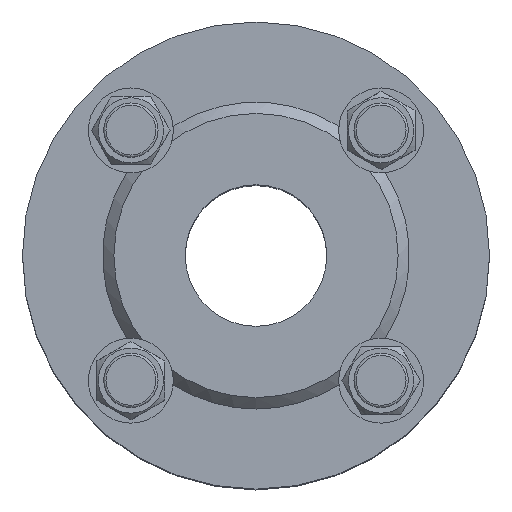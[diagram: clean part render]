
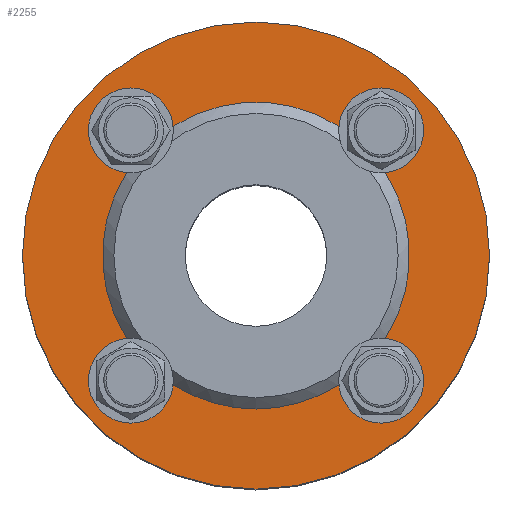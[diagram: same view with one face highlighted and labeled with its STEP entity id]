
A CAD part, top view. The second image highlights one B-rep face of the part: STEP entity #2255.
In plain terms, the highlighted planar face has unit normal (0, 0, 1) as drawn and (0, 0, -1) by its records, which use the part's own axes.
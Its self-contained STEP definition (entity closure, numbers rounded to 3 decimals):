
#2255=ADVANCED_FACE('',(#2929,#2931),#2933,.F.);
#2929=FACE_BOUND('',#2930,.T.);
#2930=EDGE_LOOP('',(#3927));
#2931=FACE_BOUND('',#2932,.T.);
#2932=EDGE_LOOP('',(#3928,#3929,#3930,#3931,#3932,#3933,#3934,#3935,#3936,#3937,
#3938,#3939,#3940));
#2933=PLANE('',#2934);
#2934=AXIS2_PLACEMENT_3D('',#2935,#2936,#2937);
#2935=CARTESIAN_POINT('',(0.,0.,4.));
#2936=DIRECTION('',(0.,0.,1.));
#2937=DIRECTION('',(-1.,0.,0.));
#3927=ORIENTED_EDGE('',*,*,#4262,.F.);
#3928=ORIENTED_EDGE('',*,*,#4265,.T.);
#3929=ORIENTED_EDGE('',*,*,#4276,.T.);
#3930=ORIENTED_EDGE('',*,*,#4266,.T.);
#3931=ORIENTED_EDGE('',*,*,#4268,.T.);
#3932=ORIENTED_EDGE('',*,*,#4277,.T.);
#3933=ORIENTED_EDGE('',*,*,#4271,.T.);
#3934=ORIENTED_EDGE('',*,*,#4270,.T.);
#3935=ORIENTED_EDGE('',*,*,#4278,.T.);
#3936=ORIENTED_EDGE('',*,*,#4279,.T.);
#3937=ORIENTED_EDGE('',*,*,#4273,.T.);
#3938=ORIENTED_EDGE('',*,*,#4272,.T.);
#3939=ORIENTED_EDGE('',*,*,#4280,.T.);
#3940=ORIENTED_EDGE('',*,*,#4263,.T.);
#4262=EDGE_CURVE('',#4646,#4646,#4647,.T.);
#4263=EDGE_CURVE('',#4648,#4649,#4650,.T.);
#4265=EDGE_CURVE('',#4649,#4651,#4653,.T.);
#4266=EDGE_CURVE('',#4654,#4655,#4656,.T.);
#4268=EDGE_CURVE('',#4655,#4657,#4659,.T.);
#4270=EDGE_CURVE('',#4663,#4660,#4664,.T.);
#4271=EDGE_CURVE('',#4661,#4663,#4665,.T.);
#4272=EDGE_CURVE('',#4666,#4667,#4668,.T.);
#4273=EDGE_CURVE('',#4669,#4666,#4670,.T.);
#4276=EDGE_CURVE('',#4651,#4654,#4674,.T.);
#4277=EDGE_CURVE('',#4657,#4661,#4675,.T.);
#4278=EDGE_CURVE('',#4660,#4676,#4677,.T.);
#4279=EDGE_CURVE('',#4676,#4669,#4678,.T.);
#4280=EDGE_CURVE('',#4667,#4648,#4679,.T.);
#4646=VERTEX_POINT('',#8432);
#4647=CIRCLE('',#8433,82.5);
#4648=VERTEX_POINT('',#8437);
#4649=VERTEX_POINT('',#8438);
#4650=CIRCLE('',#8439,9.5);
#4651=VERTEX_POINT('',#8443);
#4653=CIRCLE('',#8513,9.5);
#4654=VERTEX_POINT('',#8517);
#4655=VERTEX_POINT('',#8518);
#4656=CIRCLE('',#8519,9.5);
#4657=VERTEX_POINT('',#8523);
#4659=CIRCLE('',#8593,9.5);
#4660=VERTEX_POINT('',#8597);
#4661=VERTEX_POINT('',#8598);
#4663=VERTEX_POINT('',#8668);
#4664=CIRCLE('',#8669,9.5);
#4665=CIRCLE('',#8673,9.5);
#4666=VERTEX_POINT('',#8677);
#4667=VERTEX_POINT('',#8678);
#4668=CIRCLE('',#8679,9.5);
#4669=VERTEX_POINT('',#8683);
#4670=CIRCLE('',#8684,9.5);
#4674=CIRCLE('',#8762,54.2);
#4675=CIRCLE('',#8766,54.2);
#4676=VERTEX_POINT('',#8770);
#4677=CIRCLE('',#8771,54.2);
#4678=CIRCLE('',#8775,54.2);
#4679=CIRCLE('',#8779,54.2);
#8432=CARTESIAN_POINT('',(-82.5,0.,4.));
#8433=AXIS2_PLACEMENT_3D('',#8434,#8435,#8436);
#8434=CARTESIAN_POINT('',(0.,0.,4.));
#8435=DIRECTION('',(0.,0.,1.));
#8436=DIRECTION('',(-1.,0.,0.));
#8437=CARTESIAN_POINT('',(35.163,-41.245,4.));
#8438=CARTESIAN_POINT('',(44.194,-53.694,4.));
#8439=AXIS2_PLACEMENT_3D('',#8440,#8441,#8442);
#8440=CARTESIAN_POINT('',(44.194,-44.194,4.));
#8441=DIRECTION('',(0.,0.,1.));
#8442=DIRECTION('',(-0.951,0.31,0.));
#8443=CARTESIAN_POINT('',(41.245,-35.163,4.));
#8513=AXIS2_PLACEMENT_3D('',#8514,#8515,#8516);
#8514=CARTESIAN_POINT('',(44.194,-44.194,4.));
#8515=DIRECTION('',(0.,0.,1.));
#8516=DIRECTION('',(0.,-1.,0.));
#8517=CARTESIAN_POINT('',(41.245,35.163,4.));
#8518=CARTESIAN_POINT('',(53.694,44.194,4.));
#8519=AXIS2_PLACEMENT_3D('',#8520,#8521,#8522);
#8520=CARTESIAN_POINT('',(44.194,44.194,4.));
#8521=DIRECTION('',(0.,0.,1.));
#8522=DIRECTION('',(-0.31,-0.951,0.));
#8523=CARTESIAN_POINT('',(35.163,41.245,4.));
#8593=AXIS2_PLACEMENT_3D('',#8594,#8595,#8596);
#8594=CARTESIAN_POINT('',(44.194,44.194,4.));
#8595=DIRECTION('',(0.,0.,1.));
#8596=DIRECTION('',(1.,0.,0.));
#8597=CARTESIAN_POINT('',(-41.245,35.163,4.));
#8598=CARTESIAN_POINT('',(-35.163,41.245,4.));
#8668=CARTESIAN_POINT('',(-44.194,53.694,4.));
#8669=AXIS2_PLACEMENT_3D('',#8670,#8671,#8672);
#8670=CARTESIAN_POINT('',(-44.194,44.194,4.));
#8671=DIRECTION('',(0.,0.,1.));
#8672=DIRECTION('',(0.,1.,0.));
#8673=AXIS2_PLACEMENT_3D('',#8674,#8675,#8676);
#8674=CARTESIAN_POINT('',(-44.194,44.194,4.));
#8675=DIRECTION('',(0.,0.,1.));
#8676=DIRECTION('',(0.951,-0.31,0.));
#8677=CARTESIAN_POINT('',(-53.694,-44.194,4.));
#8678=CARTESIAN_POINT('',(-35.163,-41.245,4.));
#8679=AXIS2_PLACEMENT_3D('',#8680,#8681,#8682);
#8680=CARTESIAN_POINT('',(-44.194,-44.194,4.));
#8681=DIRECTION('',(0.,0.,1.));
#8682=DIRECTION('',(-1.,0.,0.));
#8683=CARTESIAN_POINT('',(-41.245,-35.163,4.));
#8684=AXIS2_PLACEMENT_3D('',#8685,#8686,#8687);
#8685=CARTESIAN_POINT('',(-44.194,-44.194,4.));
#8686=DIRECTION('',(0.,0.,1.));
#8687=DIRECTION('',(0.31,0.951,0.));
#8762=AXIS2_PLACEMENT_3D('',#8763,#8764,#8765);
#8763=CARTESIAN_POINT('',(0.,0.,4.));
#8764=DIRECTION('',(0.,0.,1.));
#8765=DIRECTION('',(0.761,-0.649,0.));
#8766=AXIS2_PLACEMENT_3D('',#8767,#8768,#8769);
#8767=CARTESIAN_POINT('',(0.,0.,4.));
#8768=DIRECTION('',(0.,0.,1.));
#8769=DIRECTION('',(0.649,0.761,0.));
#8770=CARTESIAN_POINT('',(-54.2,0.,4.));
#8771=AXIS2_PLACEMENT_3D('',#8772,#8773,#8774);
#8772=CARTESIAN_POINT('',(0.,0.,4.));
#8773=DIRECTION('',(0.,0.,1.));
#8774=DIRECTION('',(-0.761,0.649,0.));
#8775=AXIS2_PLACEMENT_3D('',#8776,#8777,#8778);
#8776=CARTESIAN_POINT('',(0.,0.,4.));
#8777=DIRECTION('',(0.,0.,1.));
#8778=DIRECTION('',(-1.,0.,0.));
#8779=AXIS2_PLACEMENT_3D('',#8780,#8781,#8782);
#8780=CARTESIAN_POINT('',(0.,0.,4.));
#8781=DIRECTION('',(0.,0.,1.));
#8782=DIRECTION('',(-0.649,-0.761,0.));
